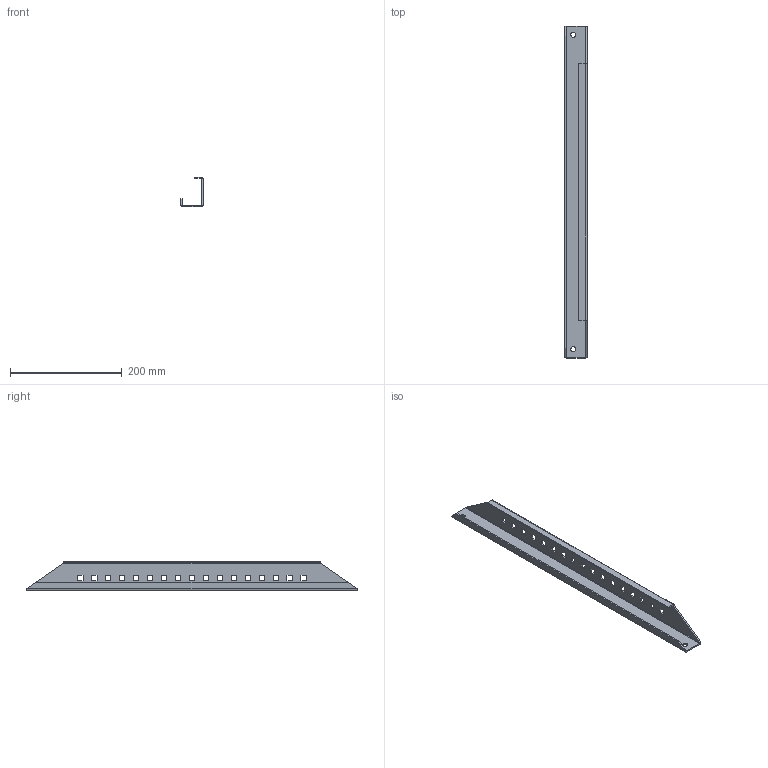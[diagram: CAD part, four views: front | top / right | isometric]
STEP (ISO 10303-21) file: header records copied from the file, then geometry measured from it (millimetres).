
FILE_DESCRIPTION (( 'STEP AP203' ), '1' );
FILE_NAME ('AEP0094.STEP', '2019-04-02T11:59:54', ( '' ), ( '' ), 'SwSTEP 2.0', 'SolidWorks 2017', '' );
FILE_SCHEMA (( 'CONFIG_CONTROL_DESIGN' ));
Length unit declared in the file: millimetre
Products named in the file (1): AEP0094
Bounding box: 40 x 595 x 53.5 mm (x, y, z)
Volume: 150355.8 mm3; surface area: 125371.7 mm2
Topology: 1 solids, 1 shells, 102 faces, 276 edges, 176 vertices
Faces by surface type: plane 88, cylinder 10, bspline 4
Entity records: 3505 total; most frequent: CARTESIAN_POINT 815, ORIENTED_EDGE 552, DIRECTION 478, EDGE_CURVE 276, VECTOR 256, LINE 256, VERTEX_POINT 176, EDGE_LOOP 140
